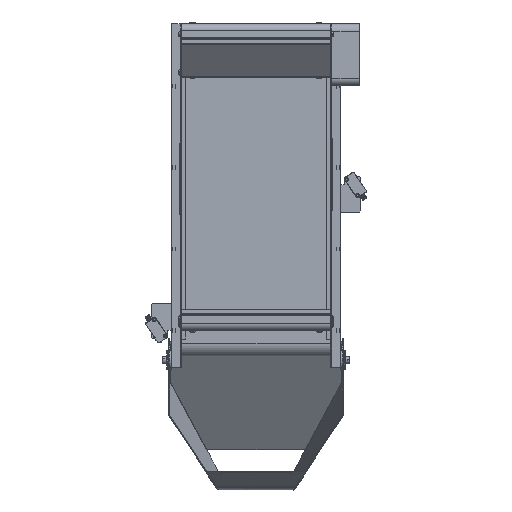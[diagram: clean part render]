
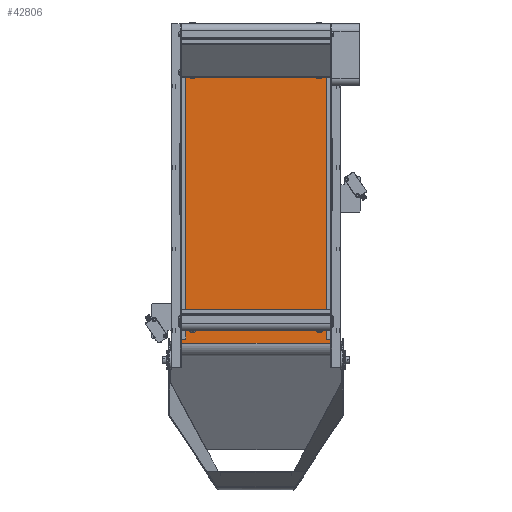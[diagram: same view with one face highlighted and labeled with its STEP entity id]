
A CAD part, top view. The second image highlights one B-rep face of the part: STEP entity #42806.
In plain terms, the highlighted planar face has unit normal (0, 0, 1) as drawn and (0, -1, 0) by its records, which use the part's own axes.
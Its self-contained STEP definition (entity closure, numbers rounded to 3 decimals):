
#4512=PLANE('',#48137);
#6632=FACE_OUTER_BOUND('',#9427,.T.);
#9427=EDGE_LOOP('',(#36207,#36208,#36209,#36210));
#11914=LINE('',#72879,#14654);
#11916=LINE('',#72885,#14656);
#11917=LINE('',#72887,#14657);
#11918=LINE('',#72888,#14658);
#14654=VECTOR('',#56794,10.);
#14656=VECTOR('',#56800,10.);
#14657=VECTOR('',#56801,10.);
#14658=VECTOR('',#56802,10.);
#20388=VERTEX_POINT('',#72876);
#20389=VERTEX_POINT('',#72878);
#20391=VERTEX_POINT('',#72884);
#20392=VERTEX_POINT('',#72886);
#25889=EDGE_CURVE('',#20389,#20388,#11914,.T.);
#25892=EDGE_CURVE('',#20388,#20391,#11916,.T.);
#25893=EDGE_CURVE('',#20392,#20391,#11917,.T.);
#25894=EDGE_CURVE('',#20392,#20389,#11918,.T.);
#36207=ORIENTED_EDGE('',*,*,#25892,.T.);
#36208=ORIENTED_EDGE('',*,*,#25893,.F.);
#36209=ORIENTED_EDGE('',*,*,#25894,.T.);
#36210=ORIENTED_EDGE('',*,*,#25889,.T.);
#42806=ADVANCED_FACE('',(#6632),#4512,.T.);
#48137=AXIS2_PLACEMENT_3D('',#72883,#56798,#56799);
#56794=DIRECTION('',(0.,0.,1.));
#56798=DIRECTION('center_axis',(0.,-1.,0.));
#56799=DIRECTION('ref_axis',(0.,0.,-1.));
#56800=DIRECTION('',(-1.,0.,0.));
#56801=DIRECTION('',(0.,0.,1.));
#56802=DIRECTION('',(1.,0.,0.));
#72876=CARTESIAN_POINT('',(184.88,-18.,199.3));
#72878=CARTESIAN_POINT('',(184.88,-18.,0.));
#72879=CARTESIAN_POINT('',(184.88,-18.,0.));
#72883=CARTESIAN_POINT('Origin',(184.88,-18.,0.));
#72884=CARTESIAN_POINT('',(-184.88,-18.,199.3));
#72885=CARTESIAN_POINT('',(-184.88,-18.,199.3));
#72886=CARTESIAN_POINT('',(-184.88,-18.,0.));
#72887=CARTESIAN_POINT('',(-184.88,-18.,0.));
#72888=CARTESIAN_POINT('',(-184.88,-18.,0.));
